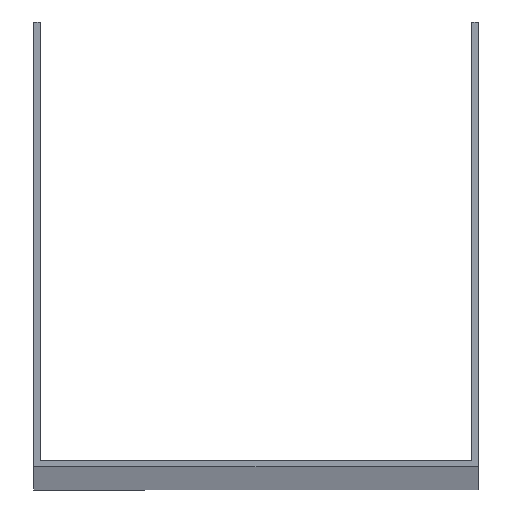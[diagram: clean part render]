
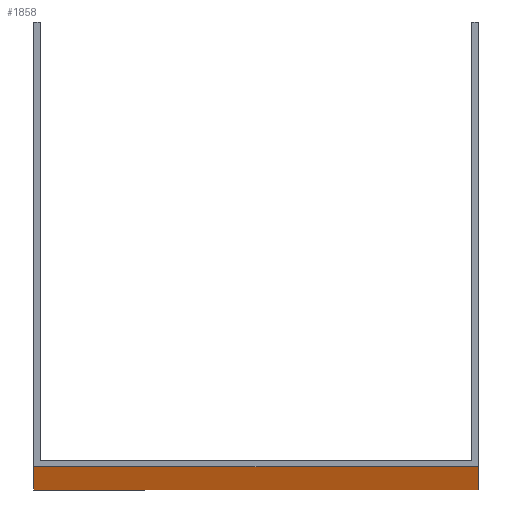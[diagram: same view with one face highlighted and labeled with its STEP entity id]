
A CAD part, top view. The second image highlights one B-rep face of the part: STEP entity #1858.
In plain terms, the highlighted planar face has unit normal (0, -1, 0).
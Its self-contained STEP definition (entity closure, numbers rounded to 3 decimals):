
#104 = CARTESIAN_POINT ( 'NONE',  ( 50., 0., 1500. ) ) ;
#148 = CARTESIAN_POINT ( 'NONE',  ( -50., 0., 1500. ) ) ;
#153 = CARTESIAN_POINT ( 'NONE',  ( 50., 0., -1500. ) ) ;
#225 = VERTEX_POINT ( 'NONE', #153 ) ;
#318 = EDGE_CURVE ( 'NONE', #1384, #225, #768, .T. ) ;
#320 = DIRECTION ( 'NONE',  ( 1., 0., 0. ) ) ;
#658 = VECTOR ( 'NONE', #2472, 1000. ) ;
#762 = CARTESIAN_POINT ( 'NONE',  ( -50., 0., 1500. ) ) ;
#768 = LINE ( 'NONE', #1112, #1148 ) ;
#986 = EDGE_CURVE ( 'NONE', #2124, #2161, #1872, .T. ) ;
#1057 = LINE ( 'NONE', #2047, #2101 ) ;
#1071 = VECTOR ( 'NONE', #1687, 1000. ) ;
#1091 = ORIENTED_EDGE ( 'NONE', *, *, #986, .T. ) ;
#1112 = CARTESIAN_POINT ( 'NONE',  ( 50., 0., 1500. ) ) ;
#1136 = EDGE_LOOP ( 'NONE', ( #1735, #2178, #2424, #1091 ) ) ;
#1148 = VECTOR ( 'NONE', #1535, 1000. ) ;
#1266 = AXIS2_PLACEMENT_3D ( 'NONE', #762, #1683, #2491 ) ;
#1277 = CARTESIAN_POINT ( 'NONE',  ( -50., 0., 1500. ) ) ;
#1318 = FACE_OUTER_BOUND ( 'NONE', #1136, .T. ) ;
#1384 = VERTEX_POINT ( 'NONE', #104 ) ;
#1493 = EDGE_CURVE ( 'NONE', #2124, #1384, #2062, .T. ) ;
#1535 = DIRECTION ( 'NONE',  ( 0., 0., -1. ) ) ;
#1683 = DIRECTION ( 'NONE',  ( 0., 1., 0. ) ) ;
#1687 = DIRECTION ( 'NONE',  ( 0., 0., -1. ) ) ;
#1735 = ORIENTED_EDGE ( 'NONE', *, *, #1832, .T. ) ;
#1832 = EDGE_CURVE ( 'NONE', #2161, #225, #1057, .T. ) ;
#1858 = ADVANCED_FACE ( 'NONE', ( #1318 ), #2275, .F. ) ;
#1872 = LINE ( 'NONE', #148, #1071 ) ;
#1928 = CARTESIAN_POINT ( 'NONE',  ( -50., 0., 1500. ) ) ;
#2047 = CARTESIAN_POINT ( 'NONE',  ( -50., 0., -1500. ) ) ;
#2062 = LINE ( 'NONE', #1277, #658 ) ;
#2099 = CARTESIAN_POINT ( 'NONE',  ( -50., 0., -1500. ) ) ;
#2101 = VECTOR ( 'NONE', #320, 1000. ) ;
#2124 = VERTEX_POINT ( 'NONE', #1928 ) ;
#2161 = VERTEX_POINT ( 'NONE', #2099 ) ;
#2178 = ORIENTED_EDGE ( 'NONE', *, *, #318, .F. ) ;
#2275 = PLANE ( 'NONE',  #1266 ) ;
#2424 = ORIENTED_EDGE ( 'NONE', *, *, #1493, .F. ) ;
#2472 = DIRECTION ( 'NONE',  ( 1., 0., 0. ) ) ;
#2491 = DIRECTION ( 'NONE',  ( -1., 0., 0. ) ) ;
